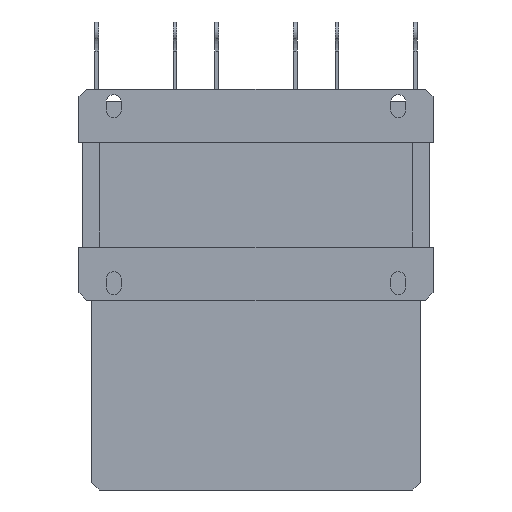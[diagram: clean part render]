
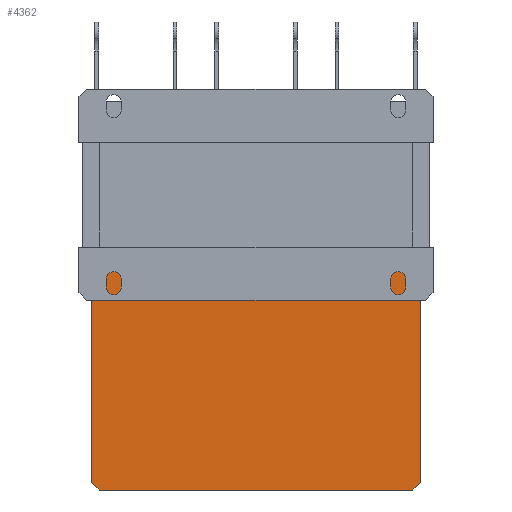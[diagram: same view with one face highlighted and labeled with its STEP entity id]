
A CAD part, front view. The second image highlights one B-rep face of the part: STEP entity #4362.
In plain terms, the highlighted planar face has unit normal (0, -1, 0).
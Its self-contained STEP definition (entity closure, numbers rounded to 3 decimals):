
#522=FACE_OUTER_BOUND('',#808,.T.);
#808=EDGE_LOOP('',(#3715,#3716,#3717,#3718,#3719,#3720));
#1205=LINE('',#7094,#1655);
#1211=LINE('',#7105,#1661);
#1217=LINE('',#7117,#1667);
#1221=LINE('',#7125,#1671);
#1222=LINE('',#7128,#1672);
#1226=LINE('',#7135,#1676);
#1655=VECTOR('',#5820,10.);
#1661=VECTOR('',#5828,10.);
#1667=VECTOR('',#5838,10.);
#1671=VECTOR('',#5844,10.);
#1672=VECTOR('',#5847,10.);
#1676=VECTOR('',#5853,10.);
#2075=VERTEX_POINT('',#7092);
#2076=VERTEX_POINT('',#7093);
#2080=VERTEX_POINT('',#7103);
#2084=VERTEX_POINT('',#7115);
#2087=VERTEX_POINT('',#7123);
#2088=VERTEX_POINT('',#7127);
#2623=EDGE_CURVE('',#2075,#2076,#1205,.T.);
#2629=EDGE_CURVE('',#2075,#2080,#1211,.T.);
#2635=EDGE_CURVE('',#2084,#2080,#1217,.T.);
#2639=EDGE_CURVE('',#2087,#2084,#1221,.T.);
#2640=EDGE_CURVE('',#2076,#2088,#1222,.T.);
#2644=EDGE_CURVE('',#2087,#2088,#1226,.T.);
#3715=ORIENTED_EDGE('',*,*,#2623,.F.);
#3716=ORIENTED_EDGE('',*,*,#2629,.T.);
#3717=ORIENTED_EDGE('',*,*,#2635,.F.);
#3718=ORIENTED_EDGE('',*,*,#2639,.F.);
#3719=ORIENTED_EDGE('',*,*,#2644,.T.);
#3720=ORIENTED_EDGE('',*,*,#2640,.F.);
#4126=PLANE('',#4787);
#4362=ADVANCED_FACE('',(#522),#4126,.T.);
#4787=AXIS2_PLACEMENT_3D('',#7140,#5860,#5861);
#5820=DIRECTION('',(-0.707,0.,0.707));
#5828=DIRECTION('',(1.,0.,0.));
#5838=DIRECTION('',(-0.707,0.,-0.707));
#5844=DIRECTION('',(0.,0.,-1.));
#5847=DIRECTION('',(0.,0.,1.));
#5853=DIRECTION('',(-1.,0.,0.));
#5860=DIRECTION('center_axis',(0.,-1.,0.));
#5861=DIRECTION('ref_axis',(0.,0.,-1.));
#7092=CARTESIAN_POINT('',(-124.,35.,-233.5));
#7093=CARTESIAN_POINT('',(-130.,35.,-227.5));
#7094=CARTESIAN_POINT('',(-140.875,35.,-216.625));
#7103=CARTESIAN_POINT('',(124.,35.,-233.5));
#7105=CARTESIAN_POINT('',(0.,35.,-233.5));
#7115=CARTESIAN_POINT('',(130.,35.,-227.5));
#7117=CARTESIAN_POINT('',(140.875,35.,-216.625));
#7123=CARTESIAN_POINT('',(130.,35.,-48.));
#7125=CARTESIAN_POINT('',(130.,35.,-48.));
#7127=CARTESIAN_POINT('',(-130.,35.,-48.));
#7128=CARTESIAN_POINT('',(-130.,35.,-48.));
#7135=CARTESIAN_POINT('',(0.,35.,-48.));
#7140=CARTESIAN_POINT('Origin',(0.,35.,-48.));
